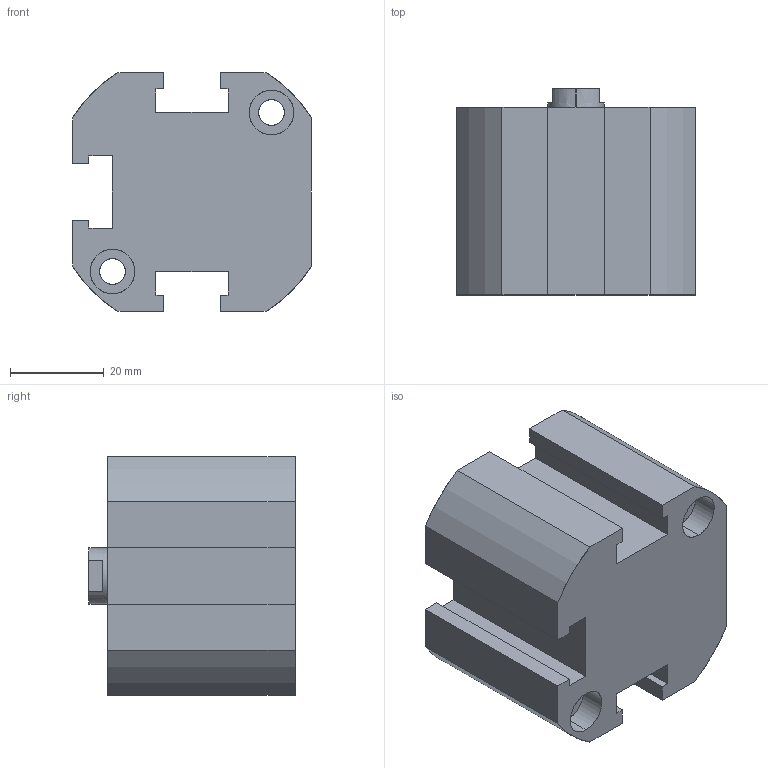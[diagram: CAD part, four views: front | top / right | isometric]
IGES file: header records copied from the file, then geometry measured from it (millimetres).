
Start section: SolidWorks IGES file using analytic representation for surfaces
Global section: file name: C:\Users\Toshiba\Desktop\XG#1-32-10.IGS; native system: SolidWorks 2014; preprocessor: SolidWorks 2014; author: Toshiba; date: 160524.094057; units: millimetre
Bounding box: 51 x 44 x 51 mm (x, y, z)
Surface area: 16875.2 mm2 (no closed solid volume)
Topology: 0 solids, 0 shells, 91 faces, 1382 edges, 1378 vertices
Faces by surface type: revolution 46, bspline 45
